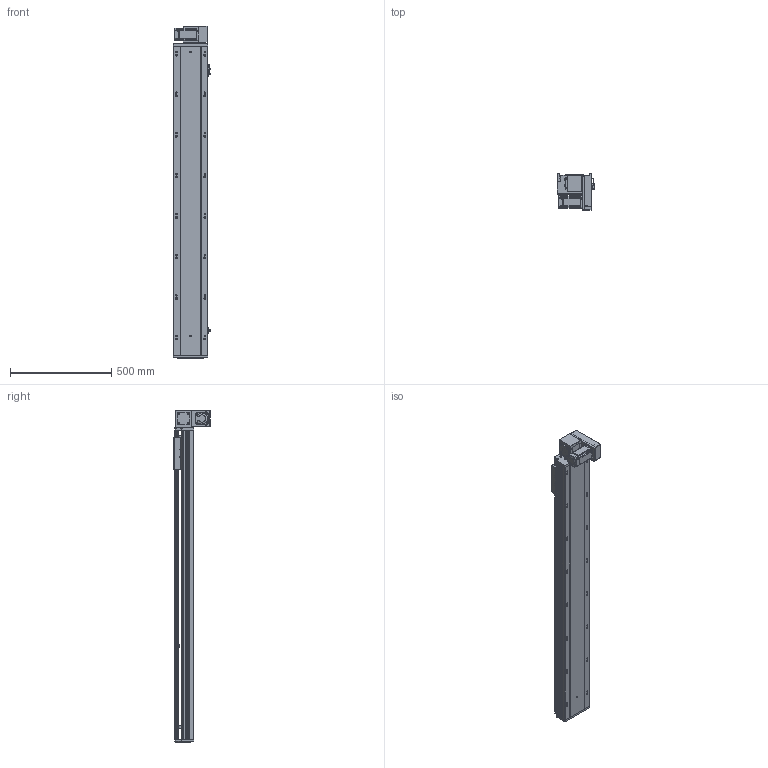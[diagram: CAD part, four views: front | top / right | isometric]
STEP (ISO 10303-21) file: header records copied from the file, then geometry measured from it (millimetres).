
FILE_DESCRIPTION (( 'STEP AP203' ), '1' );
FILE_NAME ('RY170-T-300-DR-P400W.SLDASM_1250.step', '2021-03-01T08:23:47', ( '盈信电脑' ), ( '东莞市道滘镇水果街19号' ), 'SwSTEP 2.0', 'SolidWorks 2012', '' );
FILE_SCHEMA (( 'CONFIG_CONTROL_DESIGN' ));
Length unit declared in the file: millimetre
Products named in the file (19): 15; RY170-T-300-DR-P400W.SLDASM_1250; RY170-T蹟翐M4; RY170-T-呴雄粣揤踡啣; RY170-T肮祭謫裔啣; 滅袉蝶18-10; RY120-T主同步轮轴承压盖; RY170-T肮祭湍揤踡輸1; RY170肮祭謫萇儂欶; RY170-T肮祭湍揤踡輸2; RY170翋肮祭謫釱; RY170外置感应片(200共用）; RY170肮祭謫ヶ裔啣; RY170同步轮电机安装板(400W); RY170綴裔啣; RY170-T-300肮祭謫倰第裔啣-DR_1250; 覜茼ん672; RY170肮祭湍臏賑輸; RY170-T-300肮祭謫倰第菁釱-DR_1250
Assembly tree (23 placements, depth 2):
  RY170-T-300-DR-P400W.SLDASM_1250
    RY170-T-300肮祭謫倰第菁釱-DR_1250
    RY170肮祭湍臏賑輸
    RY170-T-300肮祭謫倰第裔啣-DR_1250
    RY170綴裔啣
    覜茼ん672  x3
    RY170外置感应片(200共用）
    RY170肮祭謫ヶ裔啣
    RY170翋肮祭謫釱
    RY170同步轮电机安装板(400W)
    RY170肮祭謫萇儂欶
    RY170-T肮祭湍揤踡輸1  x2
    RY170-T肮祭湍揤踡輸2  x2
    RY120-T主同步轮轴承压盖
    RY170-T肮祭謫裔啣
    RY170-T蹟翐M4
    滅袉蝶18-10  x2
    RY170-T-呴雄粣揤踡啣
    15
Bounding box: 183.7 x 178 x 1638 mm (x, y, z)
Volume: 7962767.8 mm3; surface area: 2713275.5 mm2
Topology: 23 solids, 23 shells, 2814 faces, 7806 edges, 4999 vertices
Faces by surface type: plane 1266, cylinder 1262, cone 256, bspline 30
Entity records: 83989 total; most frequent: CARTESIAN_POINT 18672, ORIENTED_EDGE 13280, DIRECTION 13098, EDGE_CURVE 6640, AXIS2_PLACEMENT_3D 4615, VERTEX_POINT 4355, VECTOR 3868, LINE 3868
